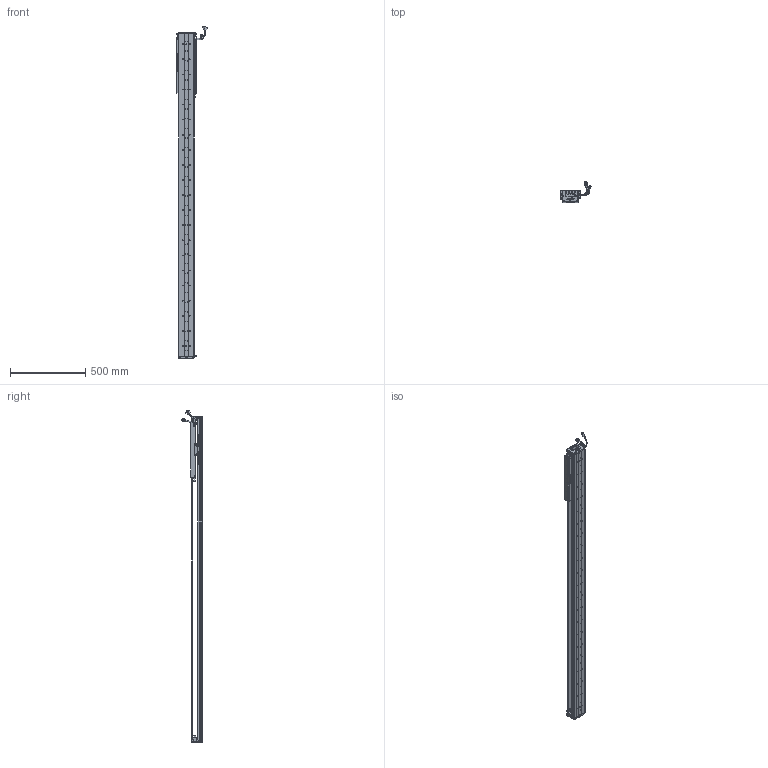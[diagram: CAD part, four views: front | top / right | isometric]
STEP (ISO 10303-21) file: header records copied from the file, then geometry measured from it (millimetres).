
FILE_DESCRIPTION (( 'STEP AP203' ), '1' );
FILE_NAME ('Z5-RY100D-1-L500-B-K.SLDASM_1700.step', '2021-05-17T03:33:55', ( '盈信电脑' ), ( '东莞市道滘镇水果街19号' ), 'SwSTEP 2.0', 'SolidWorks 2016', '' );
FILE_SCHEMA (( 'CONFIG_CONTROL_DESIGN' ));
Length unit declared in the file: millimetre
Products named in the file (36): SEAL-Part-1; PBU_SHEET; 覜茼ん672; SHIELDPLATE; SCREW-M1.7; Z-RY100D詩湍奻揤裔; SCREW-M1.6-2; SCREW-M1.6-3; Z5-RY100铝滑块（21款）; LABEL; 080黍杅芛假蚾釱21遴; 140雄赽晤鎢ん堤盄; COVER; Z5-RY100D-500-倰第菁釱_1700; SCREW-M1.6; Z5-RY100-L500詩湍90mm遵_1700; Z-RY100D詩湍狟揤裔; HARNESS; Z-100詩湍傷裔啣; SCALE-Part-1; HOLDER0; 140蚥薯蝶輸; Z5-RY100D-1-L500-B-K.SLDASM_1700; HARNESS-Part-2; COVER-Part-1; PSLH080_PSLF2; SCALE-Part-2; SCREW-M1.7-1; LABEL-Part-1; SCALE; 100-Z-臏賑輸盄裔(21遴); HARNESS-Part-1; SCREW-M1.6-1; SEAL; 榋妏寠巭燃_暯_M2_2; Z-RY100D覜茼んえ
Assembly tree (43 placements, depth 4):
  Z5-RY100D-1-L500-B-K.SLDASM_1700
    Z5-RY100D-500-倰第菁釱_1700
    Z5-RY100铝滑块（21款）
    PSLH080_PSLF2
      SCALE
        SCALE-Part-1
        SCALE-Part-2
      HARNESS
        HARNESS-Part-1
        HARNESS-Part-2
      LABEL
        LABEL-Part-1
      COVER
        COVER-Part-1
      SEAL
        SEAL-Part-1
      榋妏寠巭燃_暯_M2_2
      SHIELDPLATE
      SCREW-M1.7
      SCREW-M1.7-1
      PBU_SHEET
      SCREW-M1.6
      SCREW-M1.6-1
      SCREW-M1.6-2
      SCREW-M1.6-3
      HOLDER0
    080黍杅芛假蚾釱21遴
    Z-100詩湍傷裔啣  x2
    140蚥薯蝶輸  x2
    覜茼ん672  x3
    Z-RY100D覜茼んえ  x3
    100-Z-臏賑輸盄裔(21遴)
    140雄赽晤鎢ん堤盄
    Z5-RY100-L500詩湍90mm遵_1700
    Z-RY100D詩湍狟揤裔  x2
    Z-RY100D詩湍奻揤裔  x2
Bounding box: 205.84 x 136.11 x 2200.43 mm (x, y, z)
Volume: 4349813.6 mm3; surface area: 1668260 mm2
Topology: 38 solids, 38 shells, 2883 faces, 7777 edges, 4952 vertices
Faces by surface type: cylinder 1370, plane 1165, cone 226, torus 69, bspline 53
Entity records: 81991 total; most frequent: CARTESIAN_POINT 17183, DIRECTION 13167, ORIENTED_EDGE 12434, EDGE_CURVE 6217, AXIS2_PLACEMENT_3D 4924, VERTEX_POINT 4020, VECTOR 3319, LINE 3319
